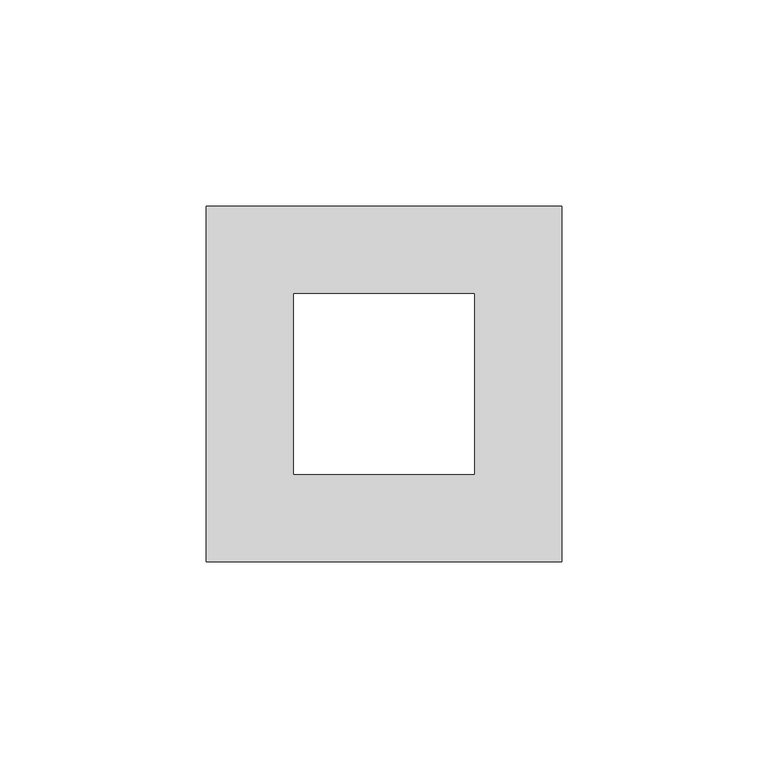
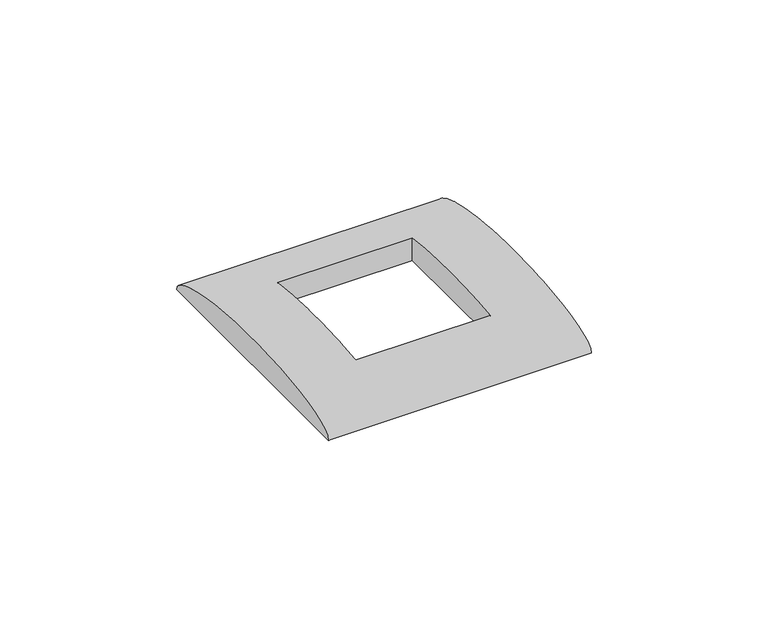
"""IFC4 building model written with IfcOpenShell, lengths in millimetres: proxy geometry, 00-Placca : Placca 2 moduli."""

import ifcopenshell
import ifcopenshell.guid

model = None  # the IFC model being written
_history = None  # IfcOwnerHistory: only IFC2X3 demands one
_inside = {}  # id of a spatial element -> (the spatial element, [elements in it])
_under = {}  # id of a project, library or spatial element -> (it, [spatial elements below it])
_declared = {}  # id of a project -> (the project, [libraries it declares])
_typed = {}  # id of a type object -> (the type object, [elements of that type])
_made_of = {}  # id of a material, layer set ... -> (it, [elements and type objects made of it])


def new_model(schema):
    """Start an empty IFC model of exactly this schema.

    Asked for "IFC4X3", IfcOpenShell would pick the latest addendum, in which some entities
    have other attributes; the version numbers below select the first issue.
    IFC2X3 requires an IfcOwnerHistory on every rooted entity: one is made here for all.
    """
    global model, _history
    if schema == "IFC4X3":
        model = ifcopenshell.file(schema_version=(4, 3, 0, 0))
    else:
        model = ifcopenshell.file(schema=schema)
    _inside.clear()
    _under.clear()
    _declared.clear()
    _typed.clear()
    _made_of.clear()
    _history = None
    if model.schema == "IFC2X3":
        org = make("IfcOrganization", Name="unknown")
        user = make(
            "IfcPersonAndOrganization",
            ThePerson=make("IfcPerson", FamilyName="unknown"),
            TheOrganization=org,
        )
        app = make(
            "IfcApplication",
            ApplicationDeveloper=org,
            Version="unknown",
            ApplicationFullName="unknown",
            ApplicationIdentifier="unknown",
        )
        _history = make(
            "IfcOwnerHistory",
            OwningUser=user,
            OwningApplication=app,
            ChangeAction="ADDED",
            CreationDate=0,
        )
    return model


def make(cls, **values):
    """One entity of the class cls with the attributes given. An attribute that is None is left unset."""
    return model.create_entity(
        cls, **{name: value for name, value in values.items() if value is not None}
    )


def rooted(cls, **values):
    """An entity with a GlobalId (a new one), such as an element, a storey or a relation."""
    return make(cls, GlobalId=ifcopenshell.guid.new(), OwnerHistory=_history, **values)


def si_unit(unit_type, name, prefix=None):
    """IfcSIUnit, for example si_unit("LENGTHUNIT", "METRE", prefix="MILLI")."""
    return make("IfcSIUnit", UnitType=unit_type, Prefix=prefix, Name=name)


def assignment(units):
    """IfcUnitAssignment: the units of a project."""
    return None if units is None else make("IfcUnitAssignment", Units=units)


def point(xyz):
    """IfcCartesianPoint."""
    return None if xyz is None else make("IfcCartesianPoint", Coordinates=xyz)


def direction(xyz):
    """IfcDirection."""
    return None if xyz is None else make("IfcDirection", DirectionRatios=xyz)


def frame(location, z_axis=None, x_axis=None):
    """IfcAxis2Placement3D, a coordinate frame: its origin and axes. An axis left out is left unset."""
    return make(
        "IfcAxis2Placement3D",
        Location=point(location),
        Axis=direction(z_axis),
        RefDirection=direction(x_axis),
    )


def origin():
    """The frame at (0, 0, 0) with its axes left unset."""
    return frame((0.0, 0.0, 0.0))


def place(relative_to, where):
    """IfcLocalPlacement: puts the frame where relative to a parent placement (None: the world)."""
    return make(
        "IfcLocalPlacement", PlacementRelTo=relative_to, RelativePlacement=where
    )


def context(
    kind, dimensions, precision=None, world=None, true_north=None, identifier=None
):
    """IfcGeometricRepresentationContext, for example the 3D "Model" context."""
    return make(
        "IfcGeometricRepresentationContext",
        ContextIdentifier=identifier,
        ContextType=kind,
        CoordinateSpaceDimension=dimensions,
        Precision=precision,
        WorldCoordinateSystem=world,
        TrueNorth=true_north,
    )


def project(units=None, contexts=None):
    """IfcProject with its units and contexts."""
    return rooted(
        "IfcProject",
        Name="project",
        RepresentationContexts=contexts,
        UnitsInContext=assignment(units),
    )


def spatial(cls, under=None, at=None, **own):
    """A site, building, storey or space (cls), placed at a placement, below another one or the project."""
    s = rooted(cls, ObjectPlacement=at, **own)
    if under is not None:
        _under.setdefault(under.id(), (under, []))[1].append(s)
    return s


def ellipse_curve(where, semi_axis1, semi_axis2):
    """IfcEllipse in the frame where."""
    return make(
        "IfcEllipse", Position=where, SemiAxis1=semi_axis1, SemiAxis2=semi_axis2
    )


def trimmed(basis, trim1, trim2, sense, master):
    """IfcTrimmedCurve: the piece of a basis curve between two trims."""
    return make(
        "IfcTrimmedCurve",
        BasisCurve=basis,
        Trim1=trim1,
        Trim2=trim2,
        SenseAgreement=sense,
        MasterRepresentation=master,
    )


def shape(context_of_items, identifier, shape_type, items):
    """IfcShapeRepresentation: the items that make up one representation, for example the "Body"."""
    return make(
        "IfcShapeRepresentation",
        ContextOfItems=context_of_items,
        RepresentationIdentifier=identifier,
        RepresentationType=shape_type,
        Items=items,
    )


def source(mapping_origin, context_of_items, identifier, shape_type, items):
    """IfcRepresentationMap: a shape defined once, which mapped items show again and again."""
    return make(
        "IfcRepresentationMap",
        MappingOrigin=mapping_origin,
        MappedRepresentation=shape(context_of_items, identifier, shape_type, items),
    )


def transform(
    local_origin,
    x_axis=None,
    y_axis=None,
    z_axis=None,
    scale=None,
    scale2=None,
    scale3=None,
    uniform=True,
):
    """IfcCartesianTransformationOperator3D, or its non-uniform kind. x_axis, y_axis, z_axis: its Axis1, 2, 3."""
    if uniform:
        return make(
            "IfcCartesianTransformationOperator3D",
            Axis1=direction(x_axis),
            Axis2=direction(y_axis),
            LocalOrigin=point(local_origin),
            Scale=scale,
            Axis3=direction(z_axis),
        )
    return make(
        "IfcCartesianTransformationOperator3DnonUniform",
        Axis1=direction(x_axis),
        Axis2=direction(y_axis),
        LocalOrigin=point(local_origin),
        Scale=scale,
        Axis3=direction(z_axis),
        Scale2=scale2,
        Scale3=scale3,
    )


def mapped(mapping_source, mapping_target):
    """IfcMappedItem: shows the shape of a source again, moved by a transform."""
    return make(
        "IfcMappedItem", MappingSource=mapping_source, MappingTarget=mapping_target
    )


def made_of(thing, what):
    """Note that an element or type object is made of a material, layer set ...; save() writes the relation."""
    if what is not None:
        _made_of.setdefault(what.id(), (what, []))[1].append(thing)
    return thing


def element(
    cls,
    number,
    at=None,
    inside=None,
    cuts=None,
    type_object=None,
    material=None,
    context=None,
    identifier="Body",
    shape_type=None,
    held_by="IfcProductDefinitionShape",
    body=None,
    shapes=None,
    **own,
):
    """One element of the class cls, such as IfcWall. Its Tag is "e" and its number.

    at: its placement. inside: the storey or other place that contains it. cuts: it is an
    opening in that element (IfcRelVoidsElement). A single representation is given by context,
    identifier, shape_type and body (its items); several are given by shapes. held_by: the class
    of the entity that holds the representations. save() writes the other relations.
    """
    e = rooted(cls, Tag="e%d" % number, ObjectPlacement=at, **own)
    if body is not None:
        shapes = [shape(context, identifier, shape_type, body)]
    if shapes is not None:
        e.Representation = make(held_by, Representations=shapes)
    if inside is not None:
        _inside.setdefault(inside.id(), (inside, []))[1].append(e)
    if cuts is not None:
        rooted(
            "IfcRelVoidsElement", RelatingBuildingElement=cuts, RelatedOpeningElement=e
        )
    if type_object is not None:
        _typed.setdefault(type_object.id(), (type_object, []))[1].append(e)
    return made_of(e, material)


def aggregate(whole, parts):
    """IfcRelAggregates: a whole, such as a stair, and the parts it consists of."""
    return rooted("IfcRelAggregates", RelatingObject=whole, RelatedObjects=parts)


def save(model, path):
    """Write the relations noted so far, then the file.

    IfcRelAggregates (storeys below a building ...), IfcRelContainedInSpatialStructure (elements
    in a storey), IfcRelDefinesByType, IfcRelAssociatesMaterial and IfcRelDeclares: one each for
    every whole, place, type object, material and project.
    """
    for whole, parts in _under.values():
        aggregate(whole, parts)
    for where, things in _inside.values():
        rooted(
            "IfcRelContainedInSpatialStructure",
            RelatedElements=things,
            RelatingStructure=where,
        )
    for kind, things in _typed.values():
        rooted("IfcRelDefinesByType", RelatedObjects=things, RelatingType=kind)
    for what, things in _made_of.values():
        rooted("IfcRelAssociatesMaterial", RelatedObjects=things, RelatingMaterial=what)
    for by, libraries in _declared.values():
        rooted("IfcRelDeclares", RelatingContext=by, RelatedDefinitions=libraries)
    model.write(path)


def plane_surface(at):
    """IfcPlane: the flat surface through the origin of the frame at, square to its z axis."""
    return make("IfcPlane", Position=at)


def extruded_surface(curve, direction_of_extrusion, depth):
    """IfcSurfaceOfLinearExtrusion: the curve pushed along a direction by depth."""
    return make(
        "IfcSurfaceOfLinearExtrusion",
        SweptCurve=make("IfcArbitraryOpenProfileDef", ProfileType="CURVE", Curve=curve),
        ExtrudedDirection=direction(direction_of_extrusion),
        Depth=depth,
    )


def advanced_brep(points, edges, surfaces, faces):
    """IfcAdvancedBrep: a solid bounded by faces that lie on surfaces and meet in shared edges.

    An edge is (start, end): straight between two places in points (the first is 0);
    or (start, end, curve); or (start, end, curve, False) where it runs against its curve.
    A face is (place in surfaces, loops), or (place, loops, False) where it looks against
    its surface's normal. A loop lists edges by number (the first is 1), with a minus sign
    where the edge is run from its end to its start. The first loop is the outer one.
    """
    corners = [point(p) for p in points]
    vertices = [make("IfcVertexPoint", VertexGeometry=c) for c in corners]
    made = []
    for start, end, *more in edges:
        made.append(
            make(
                "IfcEdgeCurve",
                EdgeStart=vertices[start],
                EdgeEnd=vertices[end],
                EdgeGeometry=more[0] if more else make("IfcPolyline", Points=[corners[start], corners[end]]),
                SameSense=more[1] if len(more) > 1 else True,
            )
        )
    hull = []
    for where, loops, *sense in faces:
        bounds = []
        for j, loop in enumerate(loops):
            ring = [make("IfcOrientedEdge", EdgeElement=made[abs(k) - 1], Orientation=k > 0) for k in loop]
            bounds.append(
                make(
                    "IfcFaceOuterBound" if j == 0 else "IfcFaceBound",
                    Bound=make("IfcEdgeLoop", EdgeList=ring),
                    Orientation=True,
                )
            )
        hull.append(make("IfcAdvancedFace", Bounds=bounds, FaceSurface=surfaces[where], SameSense=sense[0] if sense else True))
    return make("IfcAdvancedBrep", Outer=make("IfcClosedShell", CfsFaces=hull))


def electrical_fixtures_22d4ed9b(model_context):
    return source(origin(), model_context, "Body", "AdvancedBrep", [
        advanced_brep(
        [(43.0, -43.0, 2.0), (43.0, 43.0, 2.0), (-43.0, -43.0, 2.0), (-43.0, 43.0, 2.0), (22.0, -22.0, 2.0), (22.0, 22.0, 2.0), (-22.0, 22.0, 2.0), (-22.0, -22.0, 2.0), (22.0, -22.0, 9.7328641), (22.0, 22.0, 9.7328641), (-22.0, 22.0, 9.7328641), (-22.0, -22.0, 9.7328641)],
        [
            (0, 1),
            (1, 0, ellipse_curve(frame((43.0, 0.0, 2.0), z_axis=(1.0, 0.0, 0.0), x_axis=(0.0, 1.0, 0.0)), 43.0, 9.0)),
            (2, 3, ellipse_curve(frame((-43.0, 0.0, 2.0), z_axis=(-1.0, 0.0, 0.0), x_axis=(0.0, 1.0, 0.0)), 43.0, 9.0)),
            (3, 2),
            (0, 2),
            (3, 1),
            (4, 5),
            (5, 6),
            (6, 7),
            (7, 4),
            (4, 8),
            (8, 9, ellipse_curve(frame((22.0, 0.0, 2.0), z_axis=(-1.0, 0.0, 0.0), x_axis=(0.0, 1.0, 0.0)), 43.0, 9.0)),
            (9, 5),
            (9, 10),
            (10, 6),
            (10, 11, ellipse_curve(frame((-22.0, 0.0, 2.0), z_axis=(1.0, 0.0, 0.0), x_axis=(0.0, 1.0, 0.0)), 43.0, 9.0)),
            (11, 7),
            (11, 8),
        ],
        [
            plane_surface(frame((43.0, 43.0, 2.0), z_axis=(1.0, 0.0, 0.0), x_axis=(0.0, 1.0, 0.0))),
            plane_surface(frame((-43.0, 43.0, 2.0), z_axis=(-1.0, 0.0, 0.0), x_axis=(0.0, -1.0, 0.0))),
            plane_surface(frame((43.0, -43.0, 2.0), z_axis=(0.0, 0.0, -1.0), x_axis=(-1.0, 0.0, 0.0))),
            plane_surface(frame((22.0, -22.0, 13.0), z_axis=(-1.0, 0.0, 0.0), x_axis=(0.0, 0.0, -1.0))),
            plane_surface(frame((22.0, 22.0, 13.0), z_axis=(0.0, -1.0, 0.0), x_axis=(0.0, 0.0, -1.0))),
            plane_surface(frame((-22.0, 22.0, 13.0), z_axis=(1.0, 0.0, 0.0), x_axis=(0.0, 0.0, -1.0))),
            plane_surface(frame((-22.0, -22.0, 13.0), z_axis=(0.0, 1.0, 0.0), x_axis=(0.0, 0.0, -1.0))),
            extruded_surface(trimmed(ellipse_curve(frame((-129.0, 0.0, 2.0), z_axis=(1.0, 0.0, 0.0), x_axis=(0.0, 1.0, 0.0)), 43.0, 9.0), [point((-129.0, 43.0, 2.0))], [point((-129.0, -43.0, 2.0))], True, "CARTESIAN"), (86.0, 0.0, 0.0), 86.0),
        ],
        [
            (0, [[1, 2]]),
            (1, [[3, 4]]),
            (2, [[-1, 5, -4, 6], [7, 8, 9, 10]]),
            (3, [[11, 12, 13, -7]]),
            (4, [[-13, 14, 15, -8]]),
            (5, [[-15, 16, 17, -9]]),
            (6, [[-11, -10, -17, 18]]),
            (7, [[-2, -6, -3, -5], [-12, -18, -16, -14]]),
        ],
    ),
    ])


if __name__ == "__main__":
    model = new_model("IFC4")
    model_context = context("Model", 3, world=origin())
    ifc_project = project(units=[si_unit("LENGTHUNIT", "METRE", prefix="MILLI")], contexts=[model_context])
    site = spatial("IfcSite", under=ifc_project)
    building = spatial("IfcBuilding", under=site)
    placement = place(None, origin())
    electrical_fixtures_shape = electrical_fixtures_22d4ed9b(model_context)
    element("IfcBuildingElementProxy", 1, Name="00-Placca : Placca 2 moduli", ObjectType="00-Placca : Placca 2 moduli", at=placement, inside=building, context=model_context, shape_type="MappedRepresentation", body=[
        mapped(electrical_fixtures_shape, transform((0.0, 0.0, 0.0), x_axis=(1.0, 0.0, 0.0), y_axis=(0.0, 1.0, 0.0), z_axis=(0.0, 0.0, 1.0))),
    ])
    save(model, "model.ifc")
